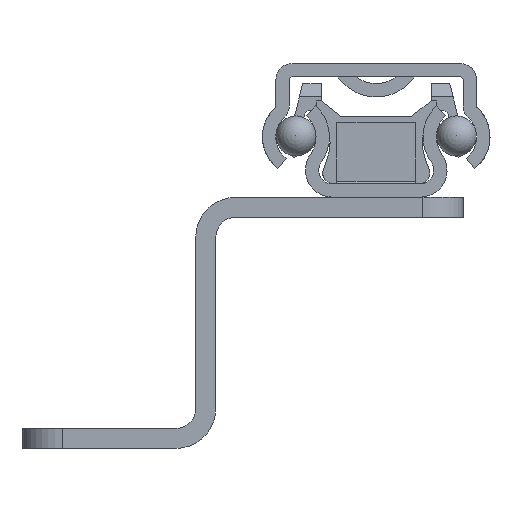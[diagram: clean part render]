
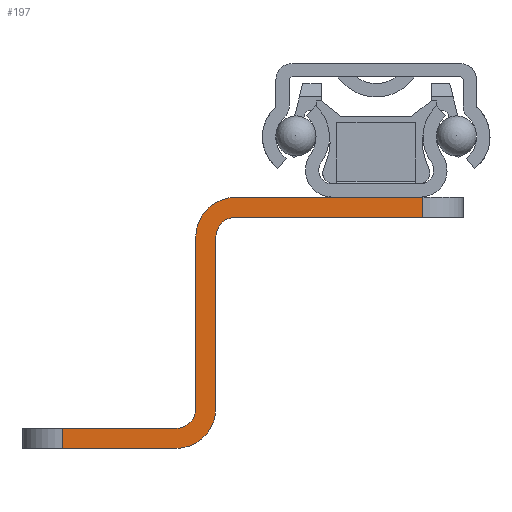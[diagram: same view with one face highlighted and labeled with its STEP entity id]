
A CAD part, front view. The second image highlights one B-rep face of the part: STEP entity #197.
In plain terms, the highlighted planar face has unit normal (0, -1, 0).
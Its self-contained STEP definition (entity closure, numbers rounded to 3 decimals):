
#34 = EDGE_CURVE ( 'NONE', #371, #5092, #7640, .T. ) ;
#98 = DIRECTION ( 'NONE',  ( 0., 0., -1. ) ) ;
#197 = ADVANCED_FACE ( 'NONE', ( #7994 ), #2259, .T. ) ;
#217 = DIRECTION ( 'NONE',  ( 0., -1., 0. ) ) ;
#317 = ORIENTED_EDGE ( 'NONE', *, *, #3880, .T. ) ;
#371 = VERTEX_POINT ( 'NONE', #1380 ) ;
#376 = CARTESIAN_POINT ( 'NONE',  ( 3., 0., 3. ) ) ;
#385 = CIRCLE ( 'NONE', #791, 3. ) ;
#411 = LINE ( 'NONE', #485, #2460 ) ;
#420 = DIRECTION ( 'NONE',  ( 0., 0., -1. ) ) ;
#485 = CARTESIAN_POINT ( 'NONE',  ( 0., 0., 0. ) ) ;
#490 = LINE ( 'NONE', #5487, #657 ) ;
#504 = VERTEX_POINT ( 'NONE', #5861 ) ;
#554 = ORIENTED_EDGE ( 'NONE', *, *, #5028, .T. ) ;
#609 = VERTEX_POINT ( 'NONE', #2212 ) ;
#635 = EDGE_LOOP ( 'NONE', ( #554, #3663, #3595, #2316, #4960, #1184, #644, #4472, #5191, #317, #3252, #5292 ) ) ;
#644 = ORIENTED_EDGE ( 'NONE', *, *, #34, .F. ) ;
#657 = VECTOR ( 'NONE', #6113, 1000. ) ;
#770 = VERTEX_POINT ( 'NONE', #1787 ) ;
#791 = AXIS2_PLACEMENT_3D ( 'NONE', #6141, #4805, #7486 ) ;
#855 = DIRECTION ( 'NONE',  ( 0., 0., 1. ) ) ;
#994 = DIRECTION ( 'NONE',  ( 1., 0., 0. ) ) ;
#1184 = ORIENTED_EDGE ( 'NONE', *, *, #2317, .F. ) ;
#1303 = CARTESIAN_POINT ( 'NONE',  ( 0., 0., 0. ) ) ;
#1380 = CARTESIAN_POINT ( 'NONE',  ( 1.5, 0., 17. ) ) ;
#1677 = DIRECTION ( 'NONE',  ( 0., 0., 1. ) ) ;
#1787 = CARTESIAN_POINT ( 'NONE',  ( 18.8, 0., -10. ) ) ;
#1913 = VERTEX_POINT ( 'NONE', #7548 ) ;
#1918 = EDGE_CURVE ( 'NONE', #4437, #1913, #8152, .T. ) ;
#1946 = CARTESIAN_POINT ( 'NONE',  ( 1.5, 0., 0. ) ) ;
#2142 = CIRCLE ( 'NONE', #6555, 3. ) ;
#2189 = VECTOR ( 'NONE', #5954, 1000. ) ;
#2203 = EDGE_CURVE ( 'NONE', #3269, #770, #4145, .T. ) ;
#2212 = CARTESIAN_POINT ( 'NONE',  ( 0., 0., 3. ) ) ;
#2226 = CARTESIAN_POINT ( 'NONE',  ( 0., 0., -10. ) ) ;
#2249 = CARTESIAN_POINT ( 'NONE',  ( 3., 0., 1.5 ) ) ;
#2259 = PLANE ( 'NONE',  #7426 ) ;
#2316 = ORIENTED_EDGE ( 'NONE', *, *, #3997, .F. ) ;
#2317 = EDGE_CURVE ( 'NONE', #5092, #2842, #3522, .T. ) ;
#2460 = VECTOR ( 'NONE', #994, 1000. ) ;
#2837 = EDGE_CURVE ( 'NONE', #7801, #770, #6096, .T. ) ;
#2842 = VERTEX_POINT ( 'NONE', #2249 ) ;
#3052 = CARTESIAN_POINT ( 'NONE',  ( 15.8, 0., 1.5 ) ) ;
#3191 = LINE ( 'NONE', #1303, #4369 ) ;
#3252 = ORIENTED_EDGE ( 'NONE', *, *, #3320, .T. ) ;
#3269 = VERTEX_POINT ( 'NONE', #5910 ) ;
#3320 = EDGE_CURVE ( 'NONE', #5925, #4437, #411, .T. ) ;
#3342 = CARTESIAN_POINT ( 'NONE',  ( 15.8, 0., -1.5 ) ) ;
#3522 = CIRCLE ( 'NONE', #8206, 1.5 ) ;
#3587 = DIRECTION ( 'NONE',  ( 0., 0., -1. ) ) ;
#3595 = ORIENTED_EDGE ( 'NONE', *, *, #2837, .F. ) ;
#3602 = CARTESIAN_POINT ( 'NONE',  ( 1.5, 0., 3. ) ) ;
#3663 = ORIENTED_EDGE ( 'NONE', *, *, #2203, .T. ) ;
#3725 = AXIS2_PLACEMENT_3D ( 'NONE', #6286, #6158, #420 ) ;
#3768 = CARTESIAN_POINT ( 'NONE',  ( 0., 0., 17. ) ) ;
#3880 = EDGE_CURVE ( 'NONE', #609, #5925, #385, .T. ) ;
#3997 = EDGE_CURVE ( 'NONE', #5692, #7801, #2142, .T. ) ;
#4145 = LINE ( 'NONE', #2226, #2189 ) ;
#4181 = DIRECTION ( 'NONE',  ( 1., 0., 0. ) ) ;
#4269 = VECTOR ( 'NONE', #6332, 1000. ) ;
#4369 = VECTOR ( 'NONE', #6509, 1000. ) ;
#4437 = VERTEX_POINT ( 'NONE', #7851 ) ;
#4472 = ORIENTED_EDGE ( 'NONE', *, *, #4831, .T. ) ;
#4805 = DIRECTION ( 'NONE',  ( 0., -1., 0. ) ) ;
#4831 = EDGE_CURVE ( 'NONE', #371, #504, #8220, .T. ) ;
#4909 = VECTOR ( 'NONE', #4181, 1000. ) ;
#4960 = ORIENTED_EDGE ( 'NONE', *, *, #6808, .F. ) ;
#5028 = EDGE_CURVE ( 'NONE', #1913, #3269, #490, .T. ) ;
#5092 = VERTEX_POINT ( 'NONE', #3602 ) ;
#5191 = ORIENTED_EDGE ( 'NONE', *, *, #6526, .T. ) ;
#5292 = ORIENTED_EDGE ( 'NONE', *, *, #1918, .T. ) ;
#5321 = DIRECTION ( 'NONE',  ( 0., 0., -1. ) ) ;
#5487 = CARTESIAN_POINT ( 'NONE',  ( 17.3, 0., 0. ) ) ;
#5692 = VERTEX_POINT ( 'NONE', #3052 ) ;
#5861 = CARTESIAN_POINT ( 'NONE',  ( 0., 0., 17. ) ) ;
#5910 = CARTESIAN_POINT ( 'NONE',  ( 17.3, 0., -10. ) ) ;
#5925 = VERTEX_POINT ( 'NONE', #8222 ) ;
#5954 = DIRECTION ( 'NONE',  ( 1., 0., 0. ) ) ;
#6096 = LINE ( 'NONE', #6825, #8140 ) ;
#6113 = DIRECTION ( 'NONE',  ( 0., 0., -1. ) ) ;
#6141 = CARTESIAN_POINT ( 'NONE',  ( 3., 0., 3. ) ) ;
#6158 = DIRECTION ( 'NONE',  ( 0., 1., 0. ) ) ;
#6286 = CARTESIAN_POINT ( 'NONE',  ( 15.8, 0., -1.5 ) ) ;
#6332 = DIRECTION ( 'NONE',  ( -1., 0., 0. ) ) ;
#6509 = DIRECTION ( 'NONE',  ( 0., 0., -1. ) ) ;
#6526 = EDGE_CURVE ( 'NONE', #504, #609, #3191, .T. ) ;
#6555 = AXIS2_PLACEMENT_3D ( 'NONE', #3342, #7313, #855 ) ;
#6761 = VECTOR ( 'NONE', #98, 1000. ) ;
#6794 = CARTESIAN_POINT ( 'NONE',  ( 0., 0., 1.5 ) ) ;
#6808 = EDGE_CURVE ( 'NONE', #2842, #5692, #8169, .T. ) ;
#6825 = CARTESIAN_POINT ( 'NONE',  ( 18.8, 0., 0. ) ) ;
#6920 = CARTESIAN_POINT ( 'NONE',  ( 18.8, 0., -1.5 ) ) ;
#6991 = DIRECTION ( 'NONE',  ( 0., -1., 0. ) ) ;
#7313 = DIRECTION ( 'NONE',  ( 0., 1., 0. ) ) ;
#7373 = CARTESIAN_POINT ( 'NONE',  ( 0., 0., 0. ) ) ;
#7426 = AXIS2_PLACEMENT_3D ( 'NONE', #7373, #217, #5321 ) ;
#7486 = DIRECTION ( 'NONE',  ( 0., 0., 1. ) ) ;
#7548 = CARTESIAN_POINT ( 'NONE',  ( 17.3, 0., -1.5 ) ) ;
#7640 = LINE ( 'NONE', #1946, #6761 ) ;
#7801 = VERTEX_POINT ( 'NONE', #6920 ) ;
#7851 = CARTESIAN_POINT ( 'NONE',  ( 15.8, 0., 0. ) ) ;
#7994 = FACE_OUTER_BOUND ( 'NONE', #635, .T. ) ;
#8140 = VECTOR ( 'NONE', #3587, 1000. ) ;
#8152 = CIRCLE ( 'NONE', #3725, 1.5 ) ;
#8169 = LINE ( 'NONE', #6794, #4909 ) ;
#8206 = AXIS2_PLACEMENT_3D ( 'NONE', #376, #6991, #1677 ) ;
#8220 = LINE ( 'NONE', #3768, #4269 ) ;
#8222 = CARTESIAN_POINT ( 'NONE',  ( 3., 0., 0. ) ) ;
